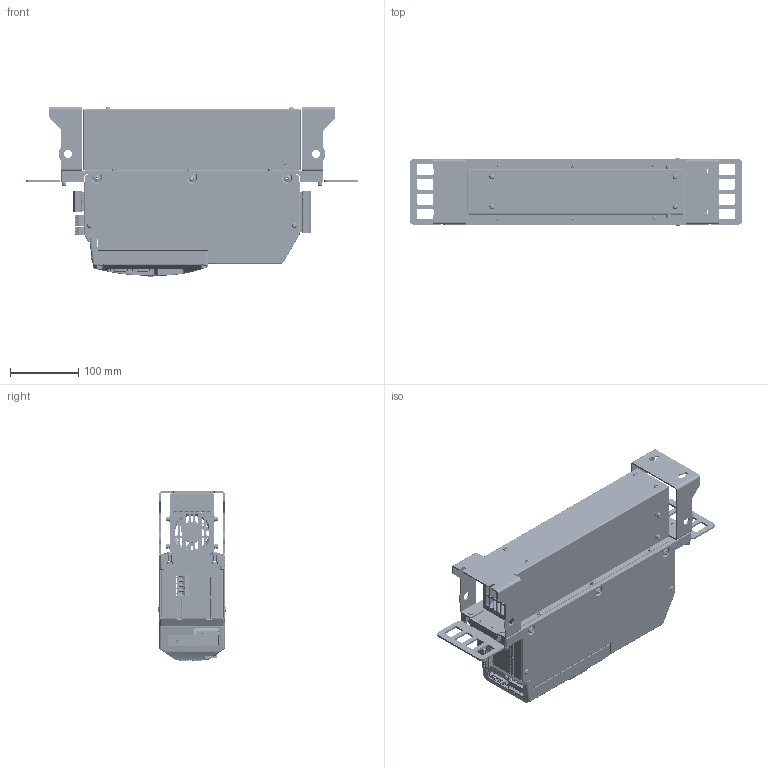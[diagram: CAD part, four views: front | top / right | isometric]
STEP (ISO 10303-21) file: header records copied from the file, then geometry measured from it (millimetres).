
FILE_DESCRIPTION((''),'2;1');
FILE_NAME('AXN15','2015-11-09T',('hegenwang'),(''),'PRO/ENGINEER BY PARAMETRIC TECHNOLOGY CORPORATION, 2010430','PRO/ENGINEER BY PARAMETRIC TECHNOLOGY CORPORATION, 2010430','');
FILE_SCHEMA(('AUTOMOTIVE_DESIGN_CC2 { 1 2 10303 214 -1 1 5 2 }'));
Products named in the file (1): AXN15
Bounding box: 488 x 100.4 x 249.53 mm (x, y, z)
Surface area: 1093586 mm2 (no closed solid volume)
Topology: 0 solids, 769 shells, 5720 faces, 22986 edges, 17621 vertices
Faces by surface type: plane 3833, cylinder 1383, torus 167, cone 166, sphere 119, bspline 52
Entity records: 275521 total; most frequent: CARTESIAN_POINT 64070, DIRECTION 34662, ORIENTED_EDGE 33189, EDGE_CURVE 22806, VERTEX_POINT 17598, VECTOR 16180, LINE 16180, AXIS2_PLACEMENT_3D 9241
